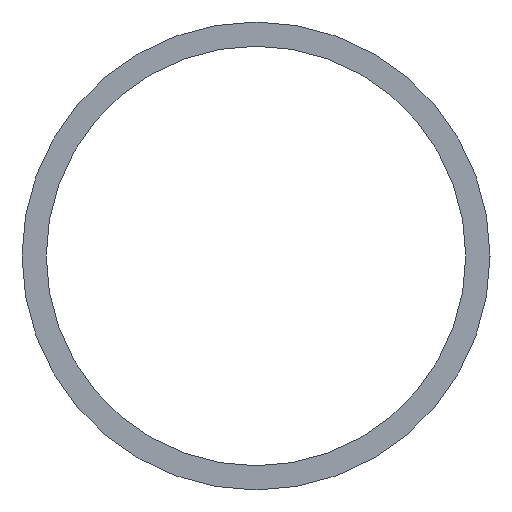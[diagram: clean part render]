
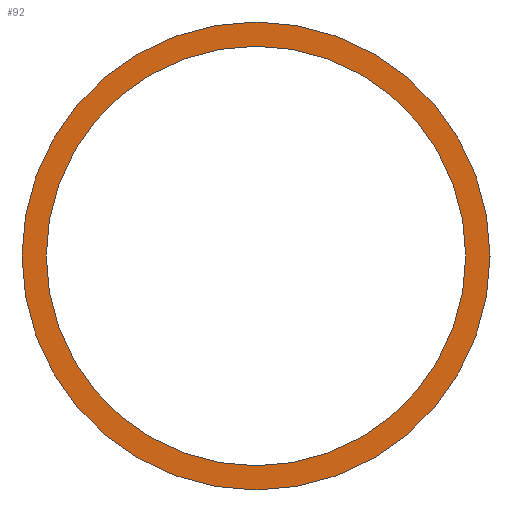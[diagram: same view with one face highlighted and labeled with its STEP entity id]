
A CAD part, left-side view. The second image highlights one B-rep face of the part: STEP entity #92.
In plain terms, the highlighted planar face has unit normal (-1, 0, 0).
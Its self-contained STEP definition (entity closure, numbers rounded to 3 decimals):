
#10 = AXIS2_PLACEMENT_3D ( 'NONE', #169, #180, #38 ) ;
#11 = EDGE_LOOP ( 'NONE', ( #35, #179 ) ) ;
#30 = VERTEX_POINT ( 'NONE', #171 ) ;
#35 = ORIENTED_EDGE ( 'NONE', *, *, #110, .F. ) ;
#38 = DIRECTION ( 'NONE',  ( 0., 0., -1. ) ) ;
#46 = ORIENTED_EDGE ( 'NONE', *, *, #54, .T. ) ;
#52 = AXIS2_PLACEMENT_3D ( 'NONE', #59, #120, #105 ) ;
#53 = CARTESIAN_POINT ( 'NONE',  ( 6085., 3775., 3471.7 ) ) ;
#54 = EDGE_CURVE ( 'NONE', #30, #164, #209, .T. ) ;
#59 = CARTESIAN_POINT ( 'NONE',  ( 6085., 3775., 3495.85 ) ) ;
#61 = VERTEX_POINT ( 'NONE', #79 ) ;
#69 = FACE_OUTER_BOUND ( 'NONE', #11, .T. ) ;
#70 = CARTESIAN_POINT ( 'NONE',  ( 6085., 3775., 3474.2 ) ) ;
#71 = DIRECTION ( 'NONE',  ( 1., 0., 0. ) ) ;
#75 = EDGE_CURVE ( 'NONE', #164, #30, #147, .T. ) ;
#79 = CARTESIAN_POINT ( 'NONE',  ( 6085., 3775., 3520. ) ) ;
#83 = DIRECTION ( 'NONE',  ( 1., 0., 0. ) ) ;
#92 = ADVANCED_FACE ( 'NONE', ( #69, #128 ), #111, .F. ) ;
#95 = CIRCLE ( 'NONE', #210, 24.15 ) ;
#98 = CARTESIAN_POINT ( 'NONE',  ( 6085., 3775., 3495.85 ) ) ;
#99 = DIRECTION ( 'NONE',  ( 0., 0., -1. ) ) ;
#100 = CIRCLE ( 'NONE', #112, 24.15 ) ;
#105 = DIRECTION ( 'NONE',  ( 0., 0., -1. ) ) ;
#110 = EDGE_CURVE ( 'NONE', #61, #134, #100, .T. ) ;
#111 = PLANE ( 'NONE',  #194 ) ;
#112 = AXIS2_PLACEMENT_3D ( 'NONE', #98, #140, #159 ) ;
#116 = CARTESIAN_POINT ( 'NONE',  ( 6085., 3775., 3495.85 ) ) ;
#120 = DIRECTION ( 'NONE',  ( 1., 0., 0. ) ) ;
#128 = FACE_BOUND ( 'NONE', #143, .T. ) ;
#130 = DIRECTION ( 'NONE',  ( 0., 0., -1. ) ) ;
#134 = VERTEX_POINT ( 'NONE', #53 ) ;
#135 = ORIENTED_EDGE ( 'NONE', *, *, #75, .T. ) ;
#140 = DIRECTION ( 'NONE',  ( 1., 0., 0. ) ) ;
#143 = EDGE_LOOP ( 'NONE', ( #46, #135 ) ) ;
#147 = CIRCLE ( 'NONE', #10, 21.65 ) ;
#159 = DIRECTION ( 'NONE',  ( 0., 0., -1. ) ) ;
#164 = VERTEX_POINT ( 'NONE', #70 ) ;
#167 = EDGE_CURVE ( 'NONE', #134, #61, #95, .T. ) ;
#169 = CARTESIAN_POINT ( 'NONE',  ( 6085., 3775., 3495.85 ) ) ;
#171 = CARTESIAN_POINT ( 'NONE',  ( 6085., 3775., 3517.5 ) ) ;
#174 = CARTESIAN_POINT ( 'NONE',  ( 6085., 3775., 3495.85 ) ) ;
#179 = ORIENTED_EDGE ( 'NONE', *, *, #167, .F. ) ;
#180 = DIRECTION ( 'NONE',  ( 1., 0., 0. ) ) ;
#194 = AXIS2_PLACEMENT_3D ( 'NONE', #174, #83, #99 ) ;
#209 = CIRCLE ( 'NONE', #52, 21.65 ) ;
#210 = AXIS2_PLACEMENT_3D ( 'NONE', #116, #71, #130 ) ;
